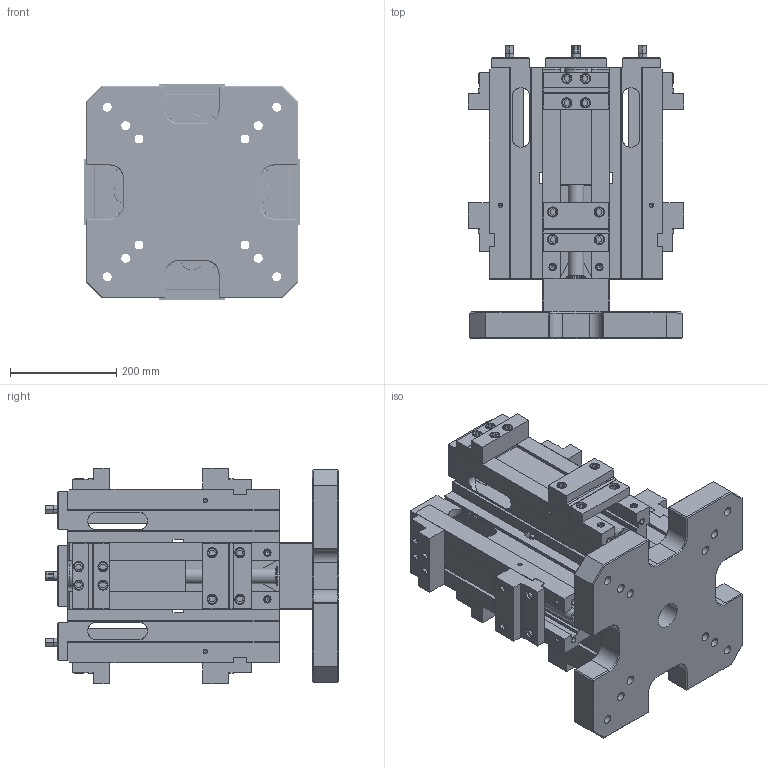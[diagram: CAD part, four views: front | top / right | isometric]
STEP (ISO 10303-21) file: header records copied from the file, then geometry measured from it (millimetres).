
FILE_DESCRIPTION((''),'2;1');
FILE_NAME('FG_WH_TOMB_SQURENP003_ASM','2026-06-12T14:33:58',('Admin'),(''),'CREO PARAMETRIC BY PTC INC, 2025010','CREO PARAMETRIC BY PTC INC, 2025010','');
FILE_SCHEMA(('CONFIG_CONTROL_DESIGN'));
Products named in the file (9): FG_WH_TOMB_SQURENP003; 3D-6921111001042_2; FG_VC_HIPR_C0055NP001_3; DIN912-M12X25-12_9; DIN912-M12X45-12_9; FIX_JAW_NC_ASM; FG_VC_HIPR_C0054NP001_2; MOVABLE_JAW_NC_ASM; FG_WH_TOMB_SQURENP003_ASM
Assembly tree (23 placements, depth 3):
  FG_WH_TOMB_SQURENP003_ASM
    FG_WH_TOMB_SQURENP003
    3D-6921111001042_2  x4
    FIX_JAW_NC_ASM  x4
      FG_VC_HIPR_C0055NP001_3
      DIN912-M12X25-12_9
      DIN912-M12X45-12_9
    MOVABLE_JAW_NC_ASM  x4
      FG_VC_HIPR_C0054NP001_2
      DIN912-M12X25-12_9
      DIN912-M12X45-12_9
Bounding box: 406 x 553.2 x 406 mm (x, y, z)
Volume: 30033791.1 mm3; surface area: 2654846.7 mm2
Topology: 45 solids, 214 shells, 3214 faces, 8536 edges, 5662 vertices
Faces by surface type: plane 1624, cylinder 1116, cone 370, torus 104
Entity records: 74803 total; most frequent: CARTESIAN_POINT 21215, DIRECTION 11290, ORIENTED_EDGE 10644, EDGE_CURVE 5578, AXIS2_PLACEMENT_3D 4102, VERTEX_POINT 3784, VECTOR 3086, LINE 3086
